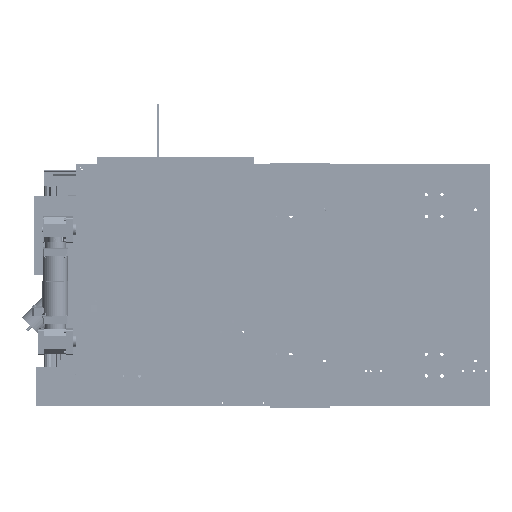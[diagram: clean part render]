
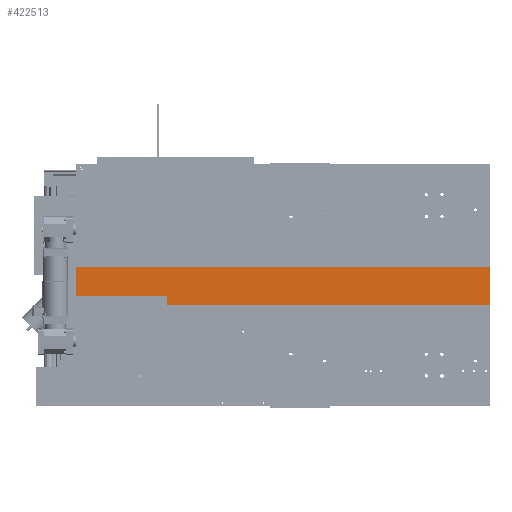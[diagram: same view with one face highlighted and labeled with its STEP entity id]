
A CAD part, front view. The second image highlights one B-rep face of the part: STEP entity #422513.
In plain terms, the highlighted planar face has unit normal (0, -1, 0).
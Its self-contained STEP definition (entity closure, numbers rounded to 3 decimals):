
#12153 = CARTESIAN_POINT ( 'NONE',  ( 300., 7., -35. ) ) ;
#13806 = ORIENTED_EDGE ( 'NONE', *, *, #479199, .F. ) ;
#18612 = ORIENTED_EDGE ( 'NONE', *, *, #34423, .F. ) ;
#24424 = VECTOR ( 'NONE', #174491, 1000. ) ;
#34423 = EDGE_CURVE ( 'NONE', #335842, #511765, #639550, .T. ) ;
#43976 = CARTESIAN_POINT ( 'NONE',  ( 300., 7., -60. ) ) ;
#63124 = CARTESIAN_POINT ( 'NONE',  ( 1370., 7., 0. ) ) ;
#102214 = ORIENTED_EDGE ( 'NONE', *, *, #442180, .F. ) ;
#102918 = EDGE_CURVE ( 'NONE', #171839, #618441, #284465, .T. ) ;
#123052 = ORIENTED_EDGE ( 'NONE', *, *, #102918, .T. ) ;
#143420 = DIRECTION ( 'NONE',  ( 0., 0., 1. ) ) ;
#171839 = VERTEX_POINT ( 'NONE', #307713 ) ;
#174491 = DIRECTION ( 'NONE',  ( 0., 0., -1. ) ) ;
#176317 = DIRECTION ( 'NONE',  ( 0., 0., 1. ) ) ;
#186965 = VECTOR ( 'NONE', #683752, 1000. ) ;
#193694 = DIRECTION ( 'NONE',  ( 0., 1., 0. ) ) ;
#201327 = CARTESIAN_POINT ( 'NONE',  ( 305., 7., -65. ) ) ;
#217160 = VERTEX_POINT ( 'NONE', #201327 ) ;
#257169 = CARTESIAN_POINT ( 'NONE',  ( 1370., 7., -65. ) ) ;
#278690 = CARTESIAN_POINT ( 'NONE',  ( 0., 7., 0. ) ) ;
#281397 = CARTESIAN_POINT ( 'NONE',  ( 1370., 7., 60. ) ) ;
#284465 = LINE ( 'NONE', #278690, #24424 ) ;
#307713 = CARTESIAN_POINT ( 'NONE',  ( 0., 7., 60. ) ) ;
#320576 = DIRECTION ( 'NONE',  ( 1., 0., 0. ) ) ;
#322389 = EDGE_CURVE ( 'NONE', #511765, #217160, #516469, .T. ) ;
#335842 = VERTEX_POINT ( 'NONE', #281397 ) ;
#348189 = CARTESIAN_POINT ( 'NONE',  ( 300., 7., -35. ) ) ;
#359086 = DIRECTION ( 'NONE',  ( 0., 1., 0. ) ) ;
#361852 = LINE ( 'NONE', #348189, #370259 ) ;
#365175 = AXIS2_PLACEMENT_3D ( 'NONE', #702424, #193694, #581226 ) ;
#366284 = CARTESIAN_POINT ( 'NONE',  ( 1370., 7., -35. ) ) ;
#370259 = VECTOR ( 'NONE', #176317, 1000. ) ;
#377204 = VECTOR ( 'NONE', #490876, 1000. ) ;
#381712 = VERTEX_POINT ( 'NONE', #43976 ) ;
#382072 = AXIS2_PLACEMENT_3D ( 'NONE', #366284, #359086, #143420 ) ;
#384653 = LINE ( 'NONE', #533896, #662172 ) ;
#403241 = EDGE_CURVE ( 'NONE', #381712, #649368, #361852, .T. ) ;
#412091 = CARTESIAN_POINT ( 'NONE',  ( 0., 7., -35. ) ) ;
#422513 = ADVANCED_FACE ( 'NONE', ( #532211 ), #698327, .F. ) ;
#427951 = CARTESIAN_POINT ( 'NONE',  ( 1370., 7., 60. ) ) ;
#442180 = EDGE_CURVE ( 'NONE', #171839, #335842, #489820, .T. ) ;
#464766 = ORIENTED_EDGE ( 'NONE', *, *, #510826, .T. ) ;
#479199 = EDGE_CURVE ( 'NONE', #217160, #381712, #607985, .T. ) ;
#489820 = LINE ( 'NONE', #427951, #377204 ) ;
#490876 = DIRECTION ( 'NONE',  ( 1., 0., 0. ) ) ;
#492133 = VECTOR ( 'NONE', #508815, 1000. ) ;
#508815 = DIRECTION ( 'NONE',  ( 0., 0., -1. ) ) ;
#510826 = EDGE_CURVE ( 'NONE', #618441, #649368, #384653, .T. ) ;
#511765 = VERTEX_POINT ( 'NONE', #527335 ) ;
#514336 = EDGE_LOOP ( 'NONE', ( #102214, #123052, #464766, #638500, #13806, #545424, #18612 ) ) ;
#516469 = LINE ( 'NONE', #257169, #186965 ) ;
#527335 = CARTESIAN_POINT ( 'NONE',  ( 1370., 7., -65. ) ) ;
#532211 = FACE_OUTER_BOUND ( 'NONE', #514336, .T. ) ;
#533896 = CARTESIAN_POINT ( 'NONE',  ( 1370., 7., -35. ) ) ;
#545424 = ORIENTED_EDGE ( 'NONE', *, *, #322389, .F. ) ;
#581226 = DIRECTION ( 'NONE',  ( 0., 0., 1. ) ) ;
#607985 = CIRCLE ( 'NONE', #365175, 5. ) ;
#618441 = VERTEX_POINT ( 'NONE', #412091 ) ;
#638500 = ORIENTED_EDGE ( 'NONE', *, *, #403241, .F. ) ;
#639550 = LINE ( 'NONE', #63124, #492133 ) ;
#649368 = VERTEX_POINT ( 'NONE', #12153 ) ;
#662172 = VECTOR ( 'NONE', #320576, 1000. ) ;
#683752 = DIRECTION ( 'NONE',  ( -1., 0., 0. ) ) ;
#698327 = PLANE ( 'NONE',  #382072 ) ;
#702424 = CARTESIAN_POINT ( 'NONE',  ( 305., 7., -60. ) ) ;
